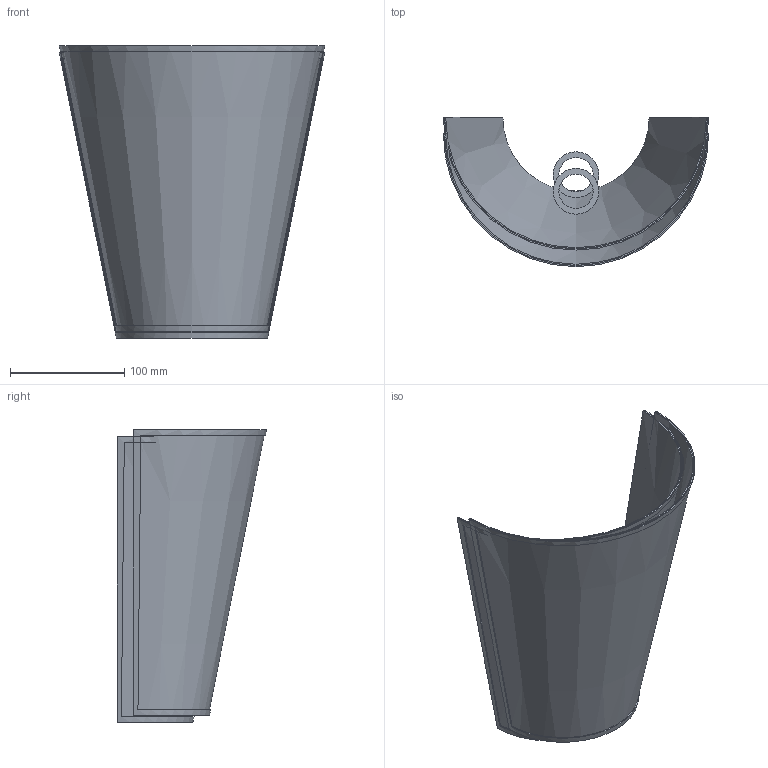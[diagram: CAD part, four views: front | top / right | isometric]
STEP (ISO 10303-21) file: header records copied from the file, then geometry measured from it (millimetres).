
FILE_DESCRIPTION( ( 'STEP AP203' ), '1' );
FILE_NAME( '//srvbf/BF Disegni/PEGASO/PEGASO-A 3D.stp', '2020-10-22T07:39:35', ( ' ' ), ( ' ' ), 'XStep 1.0', ' ', ' ' );
FILE_SCHEMA( ( 'CONFIG_CONTROL_DESIGN) ( )' ) );
Length unit declared in the file: metre
Products named in the file (4): Assem1; 1; 2; 3
Bounding box: 232.2 x 130.6 x 256.1 mm (x, y, z)
Volume: 152925.1 mm3; surface area: 316825.3 mm2
Topology: 6 solids, 6 shells, 40 faces, 84 edges, 56 vertices
Faces by surface type: plane 28, cone 8, cylinder 4
Full cylindrical faces by diameter (mm): 30 x2, 40 x2
Entity records: 724 total; most frequent: DIRECTION 104, CARTESIAN_POINT 92, ORIENTED_EDGE 80, AXIS2_PLACEMENT_3D 40, EDGE_CURVE 40, VERTEX_POINT 28, EDGE_LOOP 26, LINE 24
